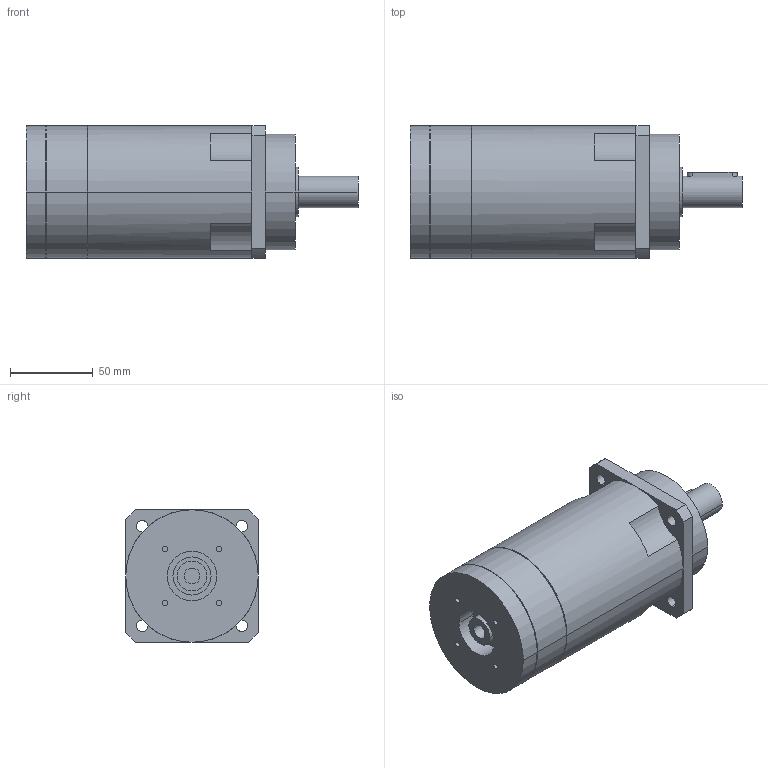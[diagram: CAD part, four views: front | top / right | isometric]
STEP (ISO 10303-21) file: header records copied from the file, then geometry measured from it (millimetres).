
FILE_DESCRIPTION(('CoCreate Modeling STEP Export'),'2;1');
FILE_NAME('GPR100_ig-48-64-80-100-120-144-180-216_19_B5_9.52_P24.stp','2014-08-26T11:57:58',(''),(''),'CoCreate Modeling STEP processor for AP214 (Solid Model)','CoCreate Modeling 16.00C 25-Feb-2009 (C) Parametric Technology GmbH','');
FILE_SCHEMA(('AUTOMOTIVE_DESIGN { 1 0 10303 214 1 1 1 1 }'));
Length unit declared in the file: millimetre
Products named in the file (2): GPR100_ig-48-64-80-100-120-144-180-216_19_B5_9.52_P24
Assembly tree (1 placements, depth 2):
  GPR100_ig-48-64-80-100-120-144-180-216_19_B5_9.52_P24
    GPR100_ig-48-64-80-100-120-144-180-216_19_B5_9.52_P24
Bounding box: 200.4 x 80 x 80 mm (x, y, z)
Volume: 798999.3 mm3; surface area: 60494 mm2
Topology: 1 solids, 1 shells, 84 faces, 214 edges, 144 vertices
Faces by surface type: cylinder 48, plane 30, cone 6
Entity records: 2289 total; most frequent: ORIENTED_EDGE 424, CARTESIAN_POINT 416, DIRECTION 336, EDGE_CURVE 212, VERTEX_POINT 144, AXIS2_PLACEMENT_3D 128, EDGE_LOOP 106, FACE_OUTER_BOUND 84
